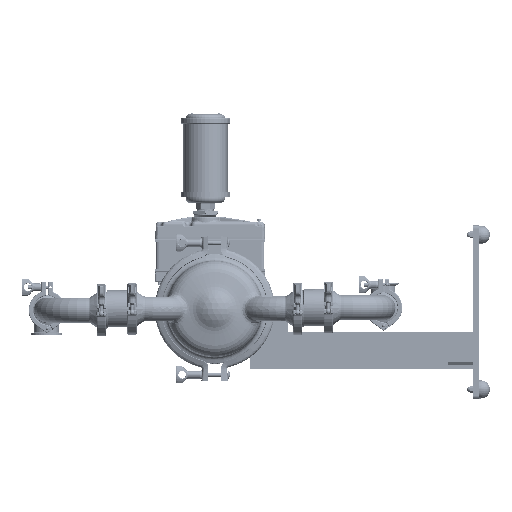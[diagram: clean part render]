
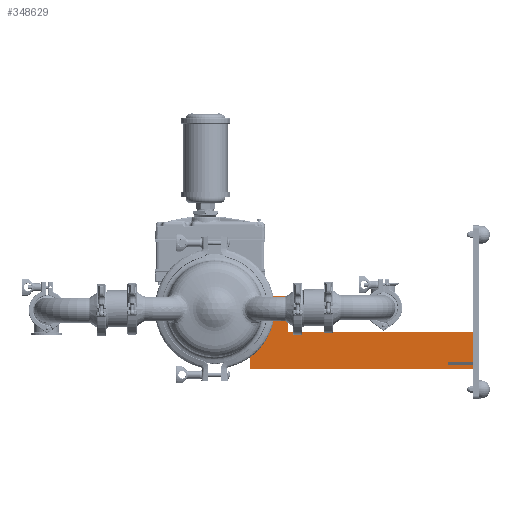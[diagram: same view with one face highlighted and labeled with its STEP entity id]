
A CAD part, left-side view. The second image highlights one B-rep face of the part: STEP entity #348629.
In plain terms, the highlighted planar face has unit normal (-1, 0, 0).
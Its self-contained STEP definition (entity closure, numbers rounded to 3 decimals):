
#5446 = EDGE_CURVE ( 'NONE', #146801, #314419, #470715, .T. ) ;
#7223 = CARTESIAN_POINT ( 'NONE',  ( -1., -18.882, -4.288 ) ) ;
#13206 = CARTESIAN_POINT ( 'NONE',  ( -1., -20.882, -1.898 ) ) ;
#17545 = VERTEX_POINT ( 'NONE', #444967 ) ;
#18367 = DIRECTION ( 'NONE',  ( 0., 0., -1. ) ) ;
#23891 = ORIENTED_EDGE ( 'NONE', *, *, #272734, .F. ) ;
#29325 = VECTOR ( 'NONE', #270488, 39.37 ) ;
#37535 = CARTESIAN_POINT ( 'NONE',  ( -1., -5.88, -1.898 ) ) ;
#45339 = EDGE_CURVE ( 'NONE', #426402, #528438, #522853, .T. ) ;
#49052 = LINE ( 'NONE', #273309, #29325 ) ;
#50124 = EDGE_CURVE ( 'NONE', #17545, #426402, #486051, .T. ) ;
#54420 = ORIENTED_EDGE ( 'NONE', *, *, #114794, .T. ) ;
#64808 = VERTEX_POINT ( 'NONE', #7223 ) ;
#74548 = CARTESIAN_POINT ( 'NONE',  ( -1., -4.21, -1.928 ) ) ;
#75702 = CARTESIAN_POINT ( 'NONE',  ( -1., -20.882, -4.288 ) ) ;
#79244 = DIRECTION ( 'NONE',  ( 0., 1., 0. ) ) ;
#89422 = LINE ( 'NONE', #129754, #149548 ) ;
#101789 = VECTOR ( 'NONE', #184008, 39.37 ) ;
#114794 = EDGE_CURVE ( 'NONE', #17545, #541982, #430647, .T. ) ;
#118335 = DIRECTION ( 'NONE',  ( 0., -1., 0. ) ) ;
#120066 = DIRECTION ( 'NONE',  ( 0., -1., 0. ) ) ;
#127104 = VECTOR ( 'NONE', #215388, 39.37 ) ;
#129016 = LINE ( 'NONE', #479900, #127104 ) ;
#129754 = CARTESIAN_POINT ( 'NONE',  ( -1., -4.21, -1.928 ) ) ;
#131408 = CARTESIAN_POINT ( 'NONE',  ( -1., -2.88, -1.928 ) ) ;
#138659 = VERTEX_POINT ( 'NONE', #416521 ) ;
#140333 = LINE ( 'NONE', #499664, #296633 ) ;
#141279 = VECTOR ( 'NONE', #383482, 39.37 ) ;
#146801 = VERTEX_POINT ( 'NONE', #13206 ) ;
#147784 = CARTESIAN_POINT ( 'NONE',  ( -1., -20.882, -4.538 ) ) ;
#148590 = EDGE_CURVE ( 'NONE', #339487, #204542, #129016, .T. ) ;
#149148 = ORIENTED_EDGE ( 'NONE', *, *, #417883, .T. ) ;
#149548 = VECTOR ( 'NONE', #170069, 39.37 ) ;
#151157 = CARTESIAN_POINT ( 'NONE',  ( -1., -20.882, -4.288 ) ) ;
#155185 = EDGE_CURVE ( 'NONE', #564954, #146801, #245014, .T. ) ;
#155532 = EDGE_CURVE ( 'NONE', #541982, #330546, #49052, .T. ) ;
#156498 = FACE_OUTER_BOUND ( 'NONE', #337071, .T. ) ;
#159348 = DIRECTION ( 'NONE',  ( 0., 0., 1. ) ) ;
#159698 = EDGE_CURVE ( 'NONE', #330546, #529495, #89422, .T. ) ;
#168744 = CARTESIAN_POINT ( 'NONE',  ( -1., -20.882, -4.898 ) ) ;
#170069 = DIRECTION ( 'NONE',  ( 0., 0., -1. ) ) ;
#184008 = DIRECTION ( 'NONE',  ( 0., 0., 1. ) ) ;
#184992 = ORIENTED_EDGE ( 'NONE', *, *, #546224, .F. ) ;
#204542 = VERTEX_POINT ( 'NONE', #307406 ) ;
#208971 = CARTESIAN_POINT ( 'NONE',  ( -1., -20.882, -1.898 ) ) ;
#211648 = VECTOR ( 'NONE', #384427, 39.37 ) ;
#211918 = DIRECTION ( 'NONE',  ( 0., 1., 0. ) ) ;
#215388 = DIRECTION ( 'NONE',  ( 0., 0., 1. ) ) ;
#218044 = DIRECTION ( 'NONE',  ( 0., -1., 0. ) ) ;
#234750 = CARTESIAN_POINT ( 'NONE',  ( -1., -5.88, -1.898 ) ) ;
#245014 = LINE ( 'NONE', #503901, #414059 ) ;
#253602 = EDGE_CURVE ( 'NONE', #524451, #138659, #314798, .T. ) ;
#258303 = LINE ( 'NONE', #522836, #532131 ) ;
#261147 = CARTESIAN_POINT ( 'NONE',  ( -1., -2.88, 1.027 ) ) ;
#263983 = VECTOR ( 'NONE', #79244, 39.37 ) ;
#269965 = VECTOR ( 'NONE', #18367, 39.37 ) ;
#270488 = DIRECTION ( 'NONE',  ( 0., -1., 0. ) ) ;
#272278 = CARTESIAN_POINT ( 'NONE',  ( -1., -5.88, 1.027 ) ) ;
#272734 = EDGE_CURVE ( 'NONE', #64808, #353661, #140333, .T. ) ;
#273309 = CARTESIAN_POINT ( 'NONE',  ( -1., -4.16, -1.928 ) ) ;
#275528 = VECTOR ( 'NONE', #542390, 39.37 ) ;
#284179 = EDGE_CURVE ( 'NONE', #524451, #353661, #258303, .T. ) ;
#291264 = VECTOR ( 'NONE', #120066, 39.37 ) ;
#292017 = CARTESIAN_POINT ( 'NONE',  ( -1., -18.882, -4.538 ) ) ;
#294299 = LINE ( 'NONE', #75702, #141279 ) ;
#296633 = VECTOR ( 'NONE', #445239, 39.37 ) ;
#297091 = CARTESIAN_POINT ( 'NONE',  ( -1., -4.16, -1.928 ) ) ;
#297849 = LINE ( 'NONE', #473297, #263983 ) ;
#307406 = CARTESIAN_POINT ( 'NONE',  ( -1., -2.88, -2.458 ) ) ;
#308918 = ORIENTED_EDGE ( 'NONE', *, *, #5446, .F. ) ;
#314419 = VERTEX_POINT ( 'NONE', #151157 ) ;
#314798 = LINE ( 'NONE', #147784, #269965 ) ;
#315752 = VECTOR ( 'NONE', #211918, 39.37 ) ;
#315966 = CARTESIAN_POINT ( 'NONE',  ( -1., -2.88, 1.027 ) ) ;
#318084 = EDGE_CURVE ( 'NONE', #529495, #204542, #297849, .T. ) ;
#326507 = ORIENTED_EDGE ( 'NONE', *, *, #45339, .F. ) ;
#330546 = VERTEX_POINT ( 'NONE', #74548 ) ;
#331961 = CARTESIAN_POINT ( 'NONE',  ( -1., -5.88, -1.898 ) ) ;
#337071 = EDGE_LOOP ( 'NONE', ( #503780, #421576, #23891, #184992, #308918, #356626, #149148, #326507, #423788, #54420, #373121, #398188, #482928, #356964, #560635 ) ) ;
#339487 = VERTEX_POINT ( 'NONE', #520026 ) ;
#348629 = ADVANCED_FACE ( 'NONE', ( #156498 ), #504554, .T. ) ;
#353661 = VERTEX_POINT ( 'NONE', #292017 ) ;
#356626 = ORIENTED_EDGE ( 'NONE', *, *, #155185, .F. ) ;
#356820 = VECTOR ( 'NONE', #218044, 39.37 ) ;
#356964 = ORIENTED_EDGE ( 'NONE', *, *, #148590, .F. ) ;
#372327 = DIRECTION ( 'NONE',  ( -1., 0., 0. ) ) ;
#373121 = ORIENTED_EDGE ( 'NONE', *, *, #155532, .T. ) ;
#378893 = LINE ( 'NONE', #168744, #315752 ) ;
#382035 = CARTESIAN_POINT ( 'NONE',  ( -1., -20.882, -4.538 ) ) ;
#383482 = DIRECTION ( 'NONE',  ( 0., 1., 0. ) ) ;
#384427 = DIRECTION ( 'NONE',  ( 0., 0., -1. ) ) ;
#398188 = ORIENTED_EDGE ( 'NONE', *, *, #159698, .T. ) ;
#404566 = LINE ( 'NONE', #234750, #275528 ) ;
#414059 = VECTOR ( 'NONE', #118335, 39.37 ) ;
#416521 = CARTESIAN_POINT ( 'NONE',  ( -1., -20.882, -4.898 ) ) ;
#417883 = EDGE_CURVE ( 'NONE', #564954, #528438, #404566, .T. ) ;
#421576 = ORIENTED_EDGE ( 'NONE', *, *, #284179, .T. ) ;
#423788 = ORIENTED_EDGE ( 'NONE', *, *, #50124, .F. ) ;
#426402 = VERTEX_POINT ( 'NONE', #315966 ) ;
#430647 = LINE ( 'NONE', #131408, #291264 ) ;
#440082 = CARTESIAN_POINT ( 'NONE',  ( -1., -2.88, -1.928 ) ) ;
#444967 = CARTESIAN_POINT ( 'NONE',  ( -1., -2.88, -1.928 ) ) ;
#445239 = DIRECTION ( 'NONE',  ( 0., 0., -1. ) ) ;
#456243 = CARTESIAN_POINT ( 'NONE',  ( -1., -4.21, -2.458 ) ) ;
#456931 = AXIS2_PLACEMENT_3D ( 'NONE', #331961, #372327, #159348 ) ;
#470715 = LINE ( 'NONE', #208971, #211648 ) ;
#473297 = CARTESIAN_POINT ( 'NONE',  ( -1., -4.21, -2.458 ) ) ;
#479900 = CARTESIAN_POINT ( 'NONE',  ( -1., -2.88, -4.898 ) ) ;
#482928 = ORIENTED_EDGE ( 'NONE', *, *, #318084, .T. ) ;
#486051 = LINE ( 'NONE', #440082, #101789 ) ;
#499664 = CARTESIAN_POINT ( 'NONE',  ( -1., -18.882, -4.288 ) ) ;
#503780 = ORIENTED_EDGE ( 'NONE', *, *, #253602, .F. ) ;
#503901 = CARTESIAN_POINT ( 'NONE',  ( -1., -5.88, -1.898 ) ) ;
#504554 = PLANE ( 'NONE',  #456931 ) ;
#520026 = CARTESIAN_POINT ( 'NONE',  ( -1., -2.88, -4.898 ) ) ;
#522836 = CARTESIAN_POINT ( 'NONE',  ( -1., -20.882, -4.538 ) ) ;
#522853 = LINE ( 'NONE', #261147, #356820 ) ;
#524451 = VERTEX_POINT ( 'NONE', #382035 ) ;
#528438 = VERTEX_POINT ( 'NONE', #272278 ) ;
#529495 = VERTEX_POINT ( 'NONE', #456243 ) ;
#532131 = VECTOR ( 'NONE', #557480, 39.37 ) ;
#534277 = EDGE_CURVE ( 'NONE', #138659, #339487, #378893, .T. ) ;
#541982 = VERTEX_POINT ( 'NONE', #297091 ) ;
#542390 = DIRECTION ( 'NONE',  ( 0., 0., 1. ) ) ;
#546224 = EDGE_CURVE ( 'NONE', #314419, #64808, #294299, .T. ) ;
#557480 = DIRECTION ( 'NONE',  ( 0., 1., 0. ) ) ;
#560635 = ORIENTED_EDGE ( 'NONE', *, *, #534277, .F. ) ;
#564954 = VERTEX_POINT ( 'NONE', #37535 ) ;
